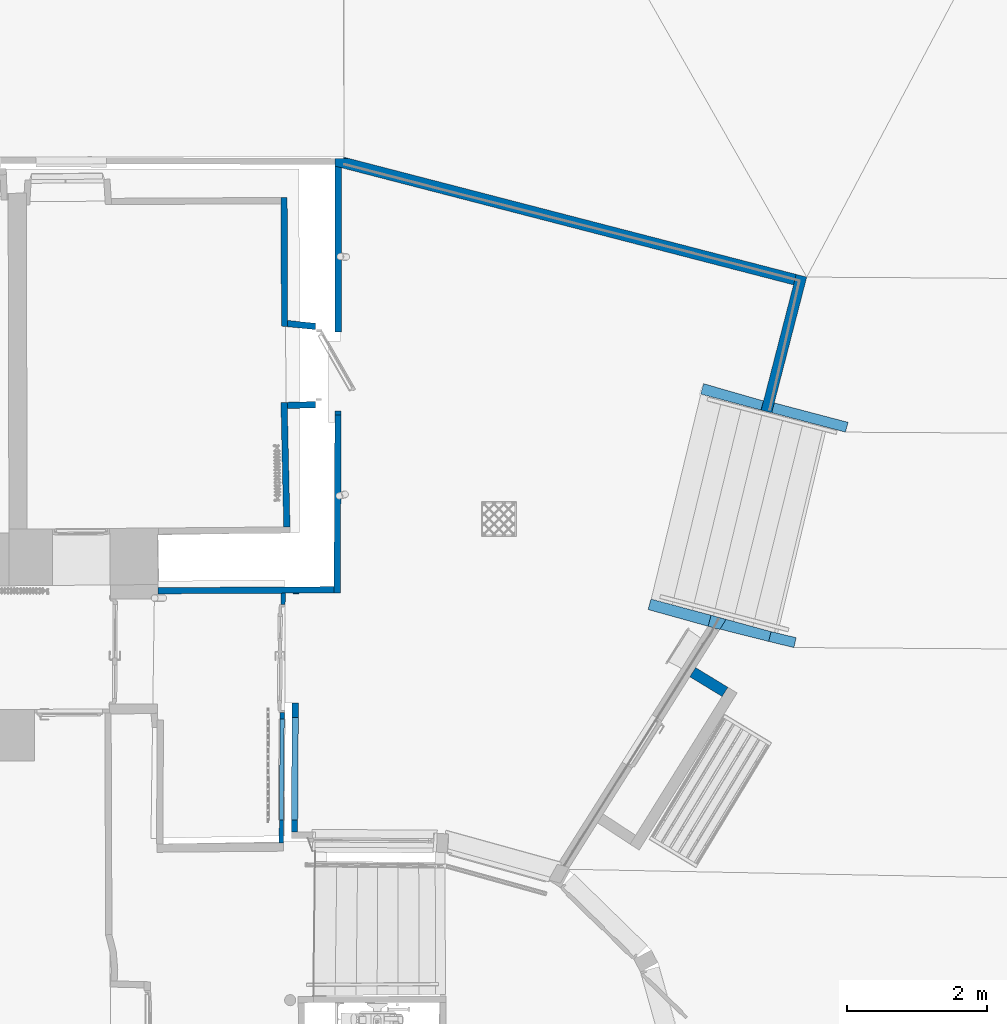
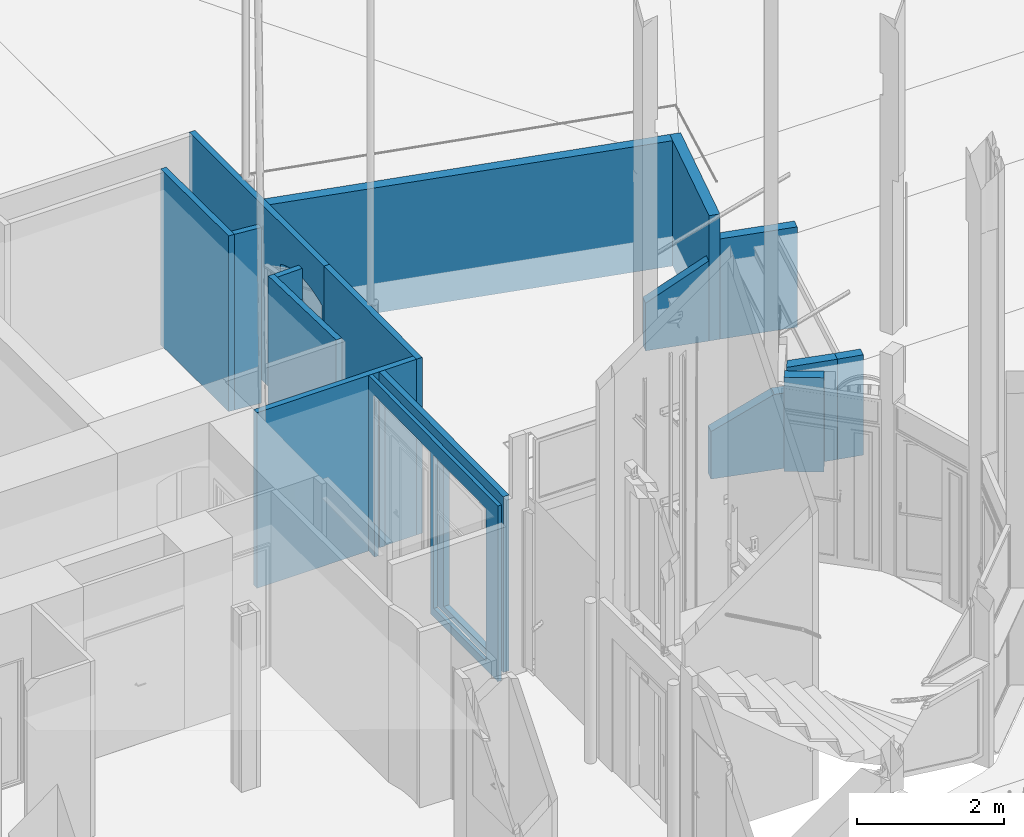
# One storey, part 31 of 133: 17 walls, 5 openings.
"""IFC2X3 building model written with IfcOpenShell, lengths in centimetres."""

from ifc_helpers import new_model, entity, si_unit, converted_unit, point, direction, frame, frame_2d, origin, origin_with_axes, origin_2d_with_axis, place, context, subcontext, project, spatial, polyline, circle_curve, trimmed, segment, composite_curve, rectangle, outline, extrude, clip, bounded_halfspace, shape, material, layer, layer_set, layer_usage, type_object, element, save


model = new_model("IFC2X3")

# Units and contexts
model_context = context("Model", 3, precision=0.0001, world=origin(), true_north=direction((0.225632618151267, 0.974212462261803, 0.0)))
body_context = subcontext(model_context, "Body", "Model", "MODEL_VIEW")
footprint_context = subcontext(model_context, "FootPrint", "Model", "MODEL_VIEW")
profile_context = subcontext(model_context, "Profile", "Model", "MODEL_VIEW")
ifc_project = project(units=[si_unit("LENGTHUNIT", "METRE", prefix="CENTI"), si_unit("AREAUNIT", "SQUARE_METRE", prefix="CENTI"), si_unit("VOLUMEUNIT", "CUBIC_METRE", prefix="CENTI"), converted_unit("PLANEANGLEUNIT", "DEGREE", entity("IfcRatioMeasure", 0.0174532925), si_unit("PLANEANGLEUNIT", "RADIAN"), dimensions=[0, 0, 0, 0, 0, 0, 0])], contexts=[model_context])

# Site, building, storey
site_placement = place(None, origin_with_axes())
site = spatial("IfcSite", under=ifc_project, at=site_placement, Name="Default Site", CompositionType="ELEMENT")
building_placement = place(site_placement, origin_with_axes())
building = spatial("IfcBuilding", under=site, at=building_placement, Name="Default Building", CompositionType="ELEMENT")
storey_placement = place(building_placement, frame((0.0, 0.0, -291.400371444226), z_axis=(0.0, 0.0, 1.0), x_axis=(1.0, 0.0, 0.0)))
storey = spatial("IfcBuildingStorey", under=building, at=storey_placement, Name="Rez-de-Jardin", CompositionType="ELEMENT", Elevation=-291.400371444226)

# Walls
ifc_material = material(Name="<aucun>")
ifc_layer_1 = layer(ifc_material, 9.0)
ifc_layer_set_1 = layer_set([ifc_layer_1], Name="default")
ifc_layer_usage_1 = layer_usage(ifc_layer_set_1, "AXIS2", "POSITIVE", -4.5)
wall_type_1 = type_object("IfcWallType", Name="default 90", PredefinedType="NOTDEFINED", material=ifc_layer_set_1)
wall_1_placement = place(storey_placement, frame((1071.70376217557, 412.268811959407, -1.94511073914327e-11), z_axis=(0.0, 0.0, 1.0), x_axis=(0.999613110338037, 0.0278141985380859, 0.0)))
element("IfcWallStandardCase", 1, at=wall_1_placement, inside=storey, type_object=wall_type_1, material=ifc_layer_usage_1, Name="Enveloppe 582876", context=body_context, shape_type="SweptSolid", body=[
    extrude(outline(polyline([(9.70743468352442, 4.49999999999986), (9.65879538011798, -4.50000000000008), (49.5114053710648, -4.50000000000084), (49.8093135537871, 4.49999999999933), (9.70743468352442, 4.49999999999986)])), frame((0.0, 0.0, 8.88178419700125e-14), z_axis=(0.0, 0.0, 1.0), x_axis=(1.0, 0.0, 0.0)), (0.0, 0.0, 1.0), 291.413221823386),
])
ifc_layer_usage_2 = layer_usage(ifc_layer_set_1, "AXIS2", "POSITIVE", -4.5)
wall_2_placement = place(storey_placement, frame((1122.36508308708, 525.191248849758, -1.94511073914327e-11), z_axis=(0.0, 0.0, 1.0), x_axis=(-0.994856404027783, 0.101295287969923, 0.0)))
element("IfcWallStandardCase", 2, at=wall_2_placement, inside=storey, type_object=wall_type_1, material=ifc_layer_usage_2, Name="Enveloppe 582874", context=body_context, shape_type="SweptSolid", body=[
    extrude(outline(polyline([(41.0546230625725, -4.49999999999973), (40.101195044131, 4.50000000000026), (5.32907051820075e-13, 4.49999999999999), (0.86846511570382, -4.49999999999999), (41.0546230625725, -4.49999999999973)])), frame((0.0, 0.0, 8.88178419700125e-14), z_axis=(0.0, 0.0, 1.0), x_axis=(1.0, 0.0, 0.0)), (0.0, 0.0, 1.0), 291.413221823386),
])
ifc_layer_usage_3 = layer_usage(ifc_layer_set_1, "AXIS2", "POSITIVE", -4.5)
wall_3_placement = place(storey_placement, frame((1081.21178245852, 219.392825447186, -1.94511073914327e-11), z_axis=(0.0, 0.0, 1.0), x_axis=(-0.022411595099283, 0.999748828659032, 0.0)))
element("IfcWallStandardCase", 3, at=wall_3_placement, inside=storey, type_object=wall_type_1, material=ifc_layer_usage_3, Name="Enveloppe 57399", context=body_context, shape_type="SweptSolid", body=[
    extrude(outline(polyline([(197.544388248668, 4.50000000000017), (19.9384758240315, 4.50000000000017), (19.8127421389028, -4.50000000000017), (197.593027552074, -4.49999999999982), (197.544388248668, 4.50000000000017)])), frame((0.0, 0.0, 1.77635683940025e-13), z_axis=(0.0, 0.0, 1.0), x_axis=(1.0, 0.0, 0.0)), (0.0, 0.0, 1.0), 291.413221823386),
])
ifc_layer_usage_4 = layer_usage(ifc_layer_set_1, "AXIS2", "POSITIVE", -4.5)
wall_4_placement = place(storey_placement, frame((1077.47747921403, 533.812176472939, -1.94511073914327e-11), z_axis=(0.0, 0.0, 1.0), x_axis=(-0.00407347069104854, 0.999991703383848, 0.0)))
element("IfcWallStandardCase", 4, at=wall_4_placement, inside=storey, type_object=wall_type_1, material=ifc_layer_usage_4, Name="Enveloppe 362015", context=body_context, shape_type="SweptSolid", body=[
    extrude(outline(polyline([(175.489473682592, 4.4999999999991), (-8.10069705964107, 4.50000000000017), (-9.05412507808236, -4.50000000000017), (175.498864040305, -4.50000000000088), (175.489473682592, 4.4999999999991)])), frame((0.0, 0.0, 1.33226762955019e-13), z_axis=(0.0, 0.0, 1.0), x_axis=(1.0, 0.0, 0.0)), (0.0, 0.0, 1.0), 291.413221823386),
])

# Wall, openings
ifc_layer_usage_5 = layer_usage(ifc_layer_set_1, "AXIS2", "POSITIVE", -4.5)
wall_5_placement = place(storey_placement, frame((1091.69287608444, -196.148801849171, -1.94511073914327e-11), z_axis=(0.0, 0.0, 1.0), x_axis=(0.00591520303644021, 0.999982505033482, 0.0)))
wall_5 = element("IfcWallStandardCase", 5, at=wall_5_placement, inside=storey, type_object=wall_type_1, material=ifc_layer_usage_5, Name="Enveloppe 357221", context=body_context, shape_type="SweptSolid", body=[
    extrude(outline(polyline([(0.00542238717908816, 4.50000000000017), (0.00542238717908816, -4.50000000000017), (340.895375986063, -4.50000399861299), (340.797865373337, 4.4999999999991), (0.00542238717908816, 4.50000000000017)])), frame((0.0, 0.0, 8.88178419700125e-14), z_axis=(0.0, 0.0, 1.0), x_axis=(1.0, 0.0, 0.0)), (0.0, 0.0, 1.0), 291.413221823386),
])
opening_1_placement = place(wall_5_placement, frame((184.005099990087, 2.27373675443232e-13, 1.03831488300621e-05), z_axis=(0.0, 0.0, 1.0), x_axis=(1.0, -1.67747760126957e-15, 0.0)))
cartesian_point_1 = entity("IfcCartesianPoint", [1.52655665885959e-14, 0.0, 267.995960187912])
cartesian_point_2 = entity("IfcCartesianPoint", [155.974739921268, 4.49999999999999])
element("IfcOpeningElement", 6, at=opening_1_placement, cuts=wall_5, Name="Baie 357470", ObjectType="Opening", shapes=[
    shape(body_context, "Body", "SweptSolid", [extrude(outline(polyline([(6.93889390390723e-15, 267.995960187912), (-1.52655665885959e-14, 4.44089209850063e-14), (155.974739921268, 4.44089209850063e-14), (155.974739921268, 267.995960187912), (6.93889390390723e-15, 267.995960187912)])), frame((0.0, 14.5, 0.0), z_axis=(0.0, -1.0, 0.0), x_axis=(1.0, 0.0, 0.0)), (0.0, 0.0, 1.0), 29.0)]),
    shape(profile_context, "Profile", "GeometricCurveSet", [entity("IfcGeometricCurveSet", [entity("IfcPolyline", [cartesian_point_1, entity("IfcCartesianPoint", [-6.93889390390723e-15, 0.0, 4.44089209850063e-14]), entity("IfcCartesianPoint", [155.974739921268, 0.0, 4.44089209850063e-14]), entity("IfcCartesianPoint", [155.974739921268, 0.0, 267.995960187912]), cartesian_point_1])])]),
    shape(footprint_context, "FootPrint", "GeometricCurveSet", [entity("IfcGeometricCurveSet", [entity("IfcPolyline", [cartesian_point_2, entity("IfcCartesianPoint", [-1.52655665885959e-14, 4.50000000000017]), entity("IfcCartesianPoint", [1.38777878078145e-15, -4.49999999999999]), entity("IfcCartesianPoint", [155.974739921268, -4.49999999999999]), cartesian_point_2])])]),
])
opening_2_placement = place(wall_5_placement, frame((16.9488453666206, 2.27373675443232e-13, 9.81828560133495), z_axis=(0.0, 0.0, 1.0), x_axis=(1.0, -1.67747760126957e-15, 0.0)))
cartesian_point_3 = entity("IfcCartesianPoint", [2.22044604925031e-14, -1.77635683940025e-13, 257.678540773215])
cartesian_point_4 = entity("IfcCartesianPoint", [146.773012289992, 4.49999999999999])
element("IfcOpeningElement", 7, at=opening_2_placement, cuts=wall_5, Name="Baie 357471", ObjectType="Opening", shapes=[
    shape(body_context, "Body", "SweptSolid", [extrude(outline(polyline([(2.22044604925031e-14, 257.678540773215), (0.0, 4.44089209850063e-14), (146.773012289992, 4.44089209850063e-14), (146.773012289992, 257.678540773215), (2.22044604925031e-14, 257.678540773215)])), frame((0.0, 14.5, 0.0), z_axis=(0.0, -1.0, 0.0), x_axis=(1.0, 0.0, 0.0)), (0.0, 0.0, 1.0), 29.0)]),
    shape(profile_context, "Profile", "GeometricCurveSet", [entity("IfcGeometricCurveSet", [entity("IfcPolyline", [cartesian_point_3, entity("IfcCartesianPoint", [0.0, -1.77635683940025e-13, 4.44089209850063e-14]), entity("IfcCartesianPoint", [146.773012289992, 0.0, 4.44089209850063e-14]), entity("IfcCartesianPoint", [146.773012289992, 0.0, 257.678540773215]), cartesian_point_3])])]),
    shape(footprint_context, "FootPrint", "GeometricCurveSet", [entity("IfcGeometricCurveSet", [entity("IfcPolyline", [cartesian_point_4, entity("IfcCartesianPoint", [0.0, 4.49999999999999]), entity("IfcCartesianPoint", [2.22044604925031e-14, -4.50000000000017]), entity("IfcCartesianPoint", [146.773012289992, -4.49999999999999]), cartesian_point_4])])]),
])

ifc_layer_2 = layer(ifc_material, 6.0)
ifc_layer_set_2 = layer_set([ifc_layer_2], Name="default")
ifc_layer_usage_6 = layer_usage(ifc_layer_set_2, "AXIS2", "POSITIVE", -3.0)
wall_type_2 = type_object("IfcWallType", Name="default 60", PredefinedType="NOTDEFINED", material=ifc_layer_set_2)
wall_6_placement = place(storey_placement, frame((1072.74238360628, -211.501360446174, -1.94511073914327e-11), z_axis=(0.0, 0.0, 1.0), x_axis=(0.00794666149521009, 0.999968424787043, 0.0)))
wall_6 = element("IfcWallStandardCase", 8, at=wall_6_placement, inside=storey, type_object=wall_type_2, material=ifc_layer_usage_6, Name="Enveloppe 72513", context=body_context, shape_type="Clipping", body=[
    clip(extrude(outline(polyline([(0.0, 3.00000000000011), (0.0, -2.99999999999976), (356.153047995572, -3.000000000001), (356.07539948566, 2.99999999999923), (0.0, 3.00000000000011)])), frame((0.0, 0.0, 8.88178419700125e-14), z_axis=(0.0, 0.0, 1.0), x_axis=(1.0, 0.0, 0.0)), (0.0, 0.0, 1.0), 291.413221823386), bounded_halfspace(frame((0.0, 2.99999999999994, 262.400371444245), z_axis=(0.0, 0.0, 1.0), x_axis=(0.016676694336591, -0.999860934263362, 0.0)), True, frame((0.0, 2.99999999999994, 262.400371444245), z_axis=(0.0, 0.0, 1.0), x_axis=(1.0, 0.0, 0.0)), polyline([(0.0, -5.99999999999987), (0.0, 0.0), (0.100074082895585, -6.00000000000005), (0.0, -5.99999999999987)]))),
])
opening_3_placement = place(wall_6_placement, frame((32.8703989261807, 0.0, 14.0000000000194), z_axis=(0.0, 0.0, 1.0), x_axis=(1.0, -4.17027523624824e-15, 0.0)))
cartesian_point_5 = entity("IfcCartesianPoint", [-1.11022302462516e-13, 0.0, 253.5])
cartesian_point_6 = entity("IfcCartesianPoint", [143.783224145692, 2.99999999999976])
element("IfcOpeningElement", 9, at=opening_3_placement, cuts=wall_6, Name="4294966474_11", ObjectType="Opening", shapes=[
    shape(body_context, "Body", "SweptSolid", [extrude(outline(polyline([(-1.33226762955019e-13, 253.5), (-1.33226762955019e-13, 0.0), (143.783224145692, 0.0), (143.783224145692, 253.5), (-1.33226762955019e-13, 253.5)])), frame((0.0, 13.0, 0.0), z_axis=(0.0, -1.0, 0.0), x_axis=(1.0, 0.0, 0.0)), (0.0, 0.0, 1.0), 26.0)]),
    shape(profile_context, "Profile", "GeometricCurveSet", [entity("IfcGeometricCurveSet", [entity("IfcPolyline", [cartesian_point_5, entity("IfcCartesianPoint", [-1.11022302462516e-13, 0.0, 0.0]), entity("IfcCartesianPoint", [143.783224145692, 0.0, 0.0]), entity("IfcCartesianPoint", [143.783224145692, 0.0, 253.5]), cartesian_point_5])])]),
    shape(footprint_context, "FootPrint", "GeometricCurveSet", [entity("IfcGeometricCurveSet", [entity("IfcPolyline", [cartesian_point_6, entity("IfcCartesianPoint", [-1.33226762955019e-13, 2.99999999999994]), entity("IfcCartesianPoint", [-8.88178419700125e-14, -2.99999999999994]), entity("IfcCartesianPoint", [143.783224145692, -2.99999999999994]), cartesian_point_6])])]),
])
opening_4_placement = place(wall_6_placement, frame((185.932714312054, -6.82121026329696e-13, 1.86077819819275e-11), z_axis=(0.0, 0.0, 1.0), x_axis=(1.0, -4.17027523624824e-15, 0.0)))
cartesian_point_7 = entity("IfcCartesianPoint", [-9.99200722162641e-14, 0.0, 268.0])
cartesian_point_8 = entity("IfcCartesianPoint", [153.89969671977, 2.99999999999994])
element("IfcOpeningElement", 10, at=opening_4_placement, cuts=wall_6, Name="4294966364_11", ObjectType="Opening", shapes=[
    shape(body_context, "Body", "SweptSolid", [extrude(outline(polyline([(-1.33226762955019e-13, 268.0), (-1.33226762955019e-13, -4.44089209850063e-14), (153.89969671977, -4.44089209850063e-14), (153.89969671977, 268.0), (-1.33226762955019e-13, 268.0)])), frame((0.0, 13.0, 0.0), z_axis=(0.0, -1.0, 0.0), x_axis=(1.0, 0.0, 0.0)), (0.0, 0.0, 1.0), 26.0)]),
    shape(profile_context, "Profile", "GeometricCurveSet", [entity("IfcGeometricCurveSet", [entity("IfcPolyline", [cartesian_point_7, entity("IfcCartesianPoint", [-9.99200722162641e-14, 0.0, -4.44089209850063e-14]), entity("IfcCartesianPoint", [153.89969671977, 0.0, -4.44089209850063e-14]), entity("IfcCartesianPoint", [153.89969671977, 0.0, 268.0]), cartesian_point_7])])]),
    shape(footprint_context, "FootPrint", "GeometricCurveSet", [entity("IfcGeometricCurveSet", [entity("IfcPolyline", [cartesian_point_8, entity("IfcCartesianPoint", [-1.33226762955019e-13, 2.99999999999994]), entity("IfcCartesianPoint", [-8.88178419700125e-14, -2.99999999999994]), entity("IfcCartesianPoint", [153.89969671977, -2.99999999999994]), cartesian_point_8])])]),
])

# Walls
ifc_layer_3 = layer(ifc_material, 15.5)
ifc_layer_set_3 = layer_set([ifc_layer_3], Name="default")
ifc_layer_usage_7 = layer_usage(ifc_layer_set_3, "AXIS2", "POSITIVE", -7.75)
wall_type_3 = type_object("IfcWallType", Name="default 155", PredefinedType="NOTDEFINED", material=ifc_layer_set_3)
wall_7_placement = place(storey_placement, frame((1719.19279831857, -4.26581232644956, 8.88178419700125e-14), z_axis=(0.0, 0.0, 1.0), x_axis=(-0.853653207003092, 0.520841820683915, 0.0)))
element("IfcWallStandardCase", 11, at=wall_7_placement, inside=storey, type_object=wall_type_3, material=ifc_layer_usage_7, Name="Enveloppe 295406", context=body_context, shape_type="SweptSolid", body=[
    extrude(outline(polyline([(69.6937518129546, 7.75000000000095), (15.6506483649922, 7.75000000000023), (15.5028205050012, -7.75000000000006), (69.4476986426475, -7.74999999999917), (69.6937518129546, 7.75000000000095)])), frame((0.0, 0.0, -1.94955163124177e-11), z_axis=(0.0, 0.0, 1.0), x_axis=(1.0, 0.0, 0.0)), (0.0, 0.0, 1.0), 156.400371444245),
])
ifc_layer_usage_8 = layer_usage(ifc_layer_set_3, "AXIS2", "POSITIVE", -7.75)
wall_8_placement = place(storey_placement, frame((1764.97666410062, 403.944606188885, -50.0), z_axis=(0.0, 0.0, 1.0), x_axis=(0.250106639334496, 0.968218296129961, 0.0)))
element("IfcWallStandardCase", 12, at=wall_8_placement, inside=storey, type_object=wall_type_3, material=ifc_layer_usage_8, Name="Enveloppe 134391", context=body_context, shape_type="Clipping", body=[
    clip(extrude(outline(polyline([(-1.77635683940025e-13, 7.75000000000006), (-1.77635683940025e-13, -7.75000000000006), (200.012958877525, -7.75000000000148), (200.02393757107, 7.74999999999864), (-1.77635683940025e-13, 7.75000000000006)])), origin_with_axes(), (0.0, 0.0, 1.0), 207.900371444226), bounded_halfspace(frame((-1.77635683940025e-13, 7.75000000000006, 166.400371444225), z_axis=(0.0, 0.0, 1.0), x_axis=(1.0, 8.3100193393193e-13, 0.0)), True, frame((-1.77635683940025e-13, 7.75000000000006, 166.400371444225), z_axis=(0.0, 0.0, 1.0), x_axis=(1.0, 0.0, 0.0)), polyline([(-1.77635683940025e-13, -15.5000000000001), (-1.77635683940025e-13, 0.0), (0.202530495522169, 0.0), (0.131608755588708, -15.5000000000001), (-1.77635683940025e-13, -15.5000000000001)]))),
])
ifc_layer_usage_9 = layer_usage(ifc_layer_set_3, "AXIS2", "POSITIVE", -7.75)
wall_9_placement = place(storey_placement, frame((1805.5672740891, 592.044698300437, -50.0), z_axis=(0.0, 0.0, 1.0), x_axis=(-0.968040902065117, 0.250792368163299, 0.0)))
element("IfcWallStandardCase", 13, at=wall_9_placement, inside=storey, type_object=wall_type_3, material=ifc_layer_usage_9, Name="Enveloppe 134414", context=body_context, shape_type="Clipping", body=[
    clip(clip(extrude(outline(polyline([(676.365799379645, 5.66309799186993), (676.244922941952, 5.6317822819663), (675.69756186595, 7.74999999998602), (-1.77635683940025e-13, 7.74999999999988), (0.0109786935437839, -7.7499999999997), (666.854560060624, -7.75000000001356), (666.854560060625, -6.05611895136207), (678.59343045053, -3.05694649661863), (676.365799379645, 5.66309799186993)])), origin_with_axes(), (0.0, 0.0, 1.0), 207.900371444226), bounded_halfspace(frame((676.954614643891, 3.35819070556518, 49.9999999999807), z_axis=(0.0, 0.0, 1.0), x_axis=(0.247512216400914, -0.968884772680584, 0.0)), True, frame((676.954614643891, 3.35819070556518, 49.9999999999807), z_axis=(0.0, 0.0, 1.0), x_axis=(1.0, 0.0, 0.0)), polyline([(-10.100054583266, -9.41430965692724), (-10.1000545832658, 4.3918092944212), (-1.2570527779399, 4.39180929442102), (-0.709691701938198, 2.27359157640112), (-0.58870919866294, 2.30449788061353), (1.63890074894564, -6.41546507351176), (-10.100054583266, -9.41430965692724)]))), bounded_halfspace(frame((666.854560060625, -6.05611895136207, 49.9999999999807), z_axis=(0.0, 0.0, -1.0), x_axis=(-0.968884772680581, -0.247512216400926, 0.0)), True, frame((666.854560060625, -6.05611895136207, 49.9999999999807), z_axis=(0.0, 0.0, 1.0), x_axis=(1.0, 0.0, 0.0)), polyline([(-6.63068505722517, -1.69388104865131), (3.5527136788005e-13, -1.69388104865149), (5.32907051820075e-13, 0.0), (-6.63068505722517, -1.69388104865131)]))),
])
ifc_layer_usage_10 = layer_usage(ifc_layer_set_3, "AXIS2", "POSITIVE", -7.75)
wall_10_placement = place(storey_placement, frame((1683.78098461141, 104.958757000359, -50.0), z_axis=(0.0, 0.0, 1.0), x_axis=(-0.963364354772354, 0.268196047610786, 0.0)))
element("IfcWallStandardCase", 14, at=wall_10_placement, inside=storey, type_object=wall_type_3, material=ifc_layer_usage_10, Name="Enveloppe 134966", context=body_context, shape_type="Clipping", body=[
    clip(extrude(outline(polyline([(88.849537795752, 7.74999999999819), (-17.2302997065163, 7.75000000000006), (-17.403590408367, 7.17389911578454), (-22.248173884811, 7.05982696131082), (-22.1671199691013, -8.57698038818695), (-1.77635683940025e-13, -8.57698038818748), (88.8495377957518, -7.75000000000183), (88.849537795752, 7.74999999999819)])), frame((0.0, 0.0, -4.44089209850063e-14), z_axis=(0.0, 0.0, 1.0), x_axis=(1.0, 0.0, 0.0)), (0.0, 0.0, 1.0), 124.997195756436), bounded_halfspace(frame((0.0, 7.7499999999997, 124.997195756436), z_axis=(-0.462110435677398, 9.18709552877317e-15, -0.886822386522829), x_axis=(8.54871728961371e-15, 1.0, 5.730183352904e-15)), True, frame((0.0, 7.7499999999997, 124.997195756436), z_axis=(0.0, 0.0, 1.0), x_axis=(1.0, 0.0, 0.0)), polyline([(-1.77635683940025e-13, -16.3269803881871), (88.8495377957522, -15.5000000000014), (88.8495377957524, -1.50990331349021e-12), (3.5527136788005e-13, 8.88178419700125e-14), (-1.77635683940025e-13, -16.3269803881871)]))),
])
ifc_layer_usage_11 = layer_usage(ifc_layer_set_1, "AXIS2", "POSITIVE", -4.5)
wall_type_4 = type_object("IfcWallType", Name="default 90", PredefinedType="NOTDEFINED", material=ifc_layer_set_1)
wall_11_placement = place(storey_placement, frame((1152.51430381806, 145.242926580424, -1.94511073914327e-11), z_axis=(0.0, 0.0, 1.0), x_axis=(0.00506195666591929, 0.999987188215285, 0.0)))
element("IfcWallStandardCase", 15, at=wall_11_placement, inside=storey, type_object=wall_type_4, material=ifc_layer_usage_11, Name="Enveloppe 354991", context=body_context, shape_type="SweptSolid", body=[
    extrude(outline(polyline([(-0.302322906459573, 4.49999999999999), (-0.211816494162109, -4.49999999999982), (253.773391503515, -4.50000000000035), (253.773391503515, 4.49999999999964), (-0.302322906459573, 4.49999999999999)])), frame((0.0, 0.0, 1.33226762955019e-13), z_axis=(0.0, 0.0, 1.0), x_axis=(1.0, 0.0, 0.0)), (0.0, 0.0, 1.0), 291.413221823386),
])

# Wall, opening
ifc_layer_usage_12 = layer_usage(ifc_layer_set_1, "AXIS2", "POSITIVE", -4.5)
wall_12_placement = place(storey_placement, frame((1153.79933398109, 399.091283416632, -1.94511073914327e-11), z_axis=(0.0, 0.0, 1.0), x_axis=(0.000623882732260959, 0.999999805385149, 0.0)))
wall_12 = element("IfcWallStandardCase", 16, at=wall_12_placement, inside=storey, type_object=wall_type_4, material=ifc_layer_usage_12, Name="Enveloppe 354607", context=body_context, shape_type="Clipping", body=[
    clip(clip(extrude(outline(polyline([(-0.0582455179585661, 4.50034713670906), (-0.0981882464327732, -4.49956422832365), (366.07111355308, -4.49999999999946), (366.095981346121, 4.50000000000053), (-0.0582455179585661, 4.50034713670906)])), frame((0.0, 0.0, 8.88178419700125e-14), z_axis=(0.0, 0.0, 1.0), x_axis=(1.0, 0.0, 0.0)), (0.0, 0.0, 1.0), 291.413221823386), bounded_halfspace(frame((357.095946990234, 4.50000000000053, 157.900371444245), z_axis=(0.0, 0.0, 1.0), x_axis=(1.0, 9.81005641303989e-14, 0.0)), True, frame((357.095946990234, 4.50000000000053, 157.900371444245), z_axis=(0.0, 0.0, 1.0), x_axis=(1.0, 0.0, 0.0)), polyline([(-2.61271293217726, -1.64437524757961), (-2.18779579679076, 0.0), (2.37761286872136, 1.77635683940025e-13), (2.36100413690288, -1.59904232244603), (-2.61271293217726, -1.64437524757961)]))), bounded_halfspace(frame((352.582493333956, -4.49999999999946, 157.900371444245), z_axis=(0.0, 0.0, 1.0), x_axis=(0.250188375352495, 0.968197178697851, 0.0)), True, frame((352.582493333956, -4.49999999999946, 157.900371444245), z_axis=(0.0, 0.0, 1.0), x_axis=(1.0, 0.0, 0.0)), polyline([(0.0, 0.0), (1.90074072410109, 7.35562475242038), (6.87445779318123, 7.40095767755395), (6.89106652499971, 9.00000000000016), (13.5134880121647, 8.99999999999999), (13.4886202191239, 1.77635683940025e-13), (0.0, 0.0)]))),
])
opening_5_placement = place(wall_12_placement, frame((5.40543074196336, 2.27373675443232e-13, 8.88178419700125e-14), z_axis=(0.0, 0.0, 1.0), x_axis=(-1.0, -1.49305481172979e-15, 0.0)))
cartesian_point_9 = entity("IfcCartesianPoint", [0.0, 0.0, 222.993602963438])
cartesian_point_10 = entity("IfcCartesianPoint", [-112.531759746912, 0.0, 222.993602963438])
cartesian_point_11 = entity("IfcCartesianPoint", [-112.531759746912, -4.49999999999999])
element("IfcOpeningElement", 17, at=opening_5_placement, cuts=wall_12, Name="Baie 356362", ObjectType="Opening", shapes=[
    shape(body_context, "Body", "SweptSolid", [extrude(outline(composite_curve([segment(polyline([(-8.88178419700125e-14, 222.993602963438), (-8.88178419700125e-14, 0.0), (112.531759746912, 0.0), (112.531759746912, 222.993602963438)]), True, "CONTINUOUS"), segment(trimmed(circle_curve(frame_2d((56.2658798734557, 107.647450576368), x_axis=(1.0, 0.0)), 128.337773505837), [point((112.531759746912, 222.993602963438))], [point((-8.88178419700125e-14, 222.993602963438))], True, "CARTESIAN"), True, "CONTINUOUS")], self_intersect=False)), frame((0.0, -14.5, 0.0), z_axis=(0.0, 1.0, 0.0), x_axis=(-1.0, 0.0, 0.0)), (0.0, 0.0, 1.0), 29.0)]),
    shape(profile_context, "Profile", "GeometricCurveSet", [entity("IfcGeometricCurveSet", [entity("IfcCompositeCurve", [entity("IfcCompositeCurveSegment", "CONTINUOUS", True, entity("IfcPolyline", [cartesian_point_9, entity("IfcCartesianPoint", [0.0, 0.0, 0.0]), entity("IfcCartesianPoint", [-112.531759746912, 0.0, 0.0]), cartesian_point_10])), entity("IfcCompositeCurveSegment", "CONTINUOUS", True, entity("IfcTrimmedCurve", entity("IfcCircle", entity("IfcAxis2Placement3D", entity("IfcCartesianPoint", [-56.2658798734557, 1.77635683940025e-13, 107.647450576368]), entity("IfcDirection", [0.0, 1.0, -1.36730960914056e-14]), entity("IfcDirection", [1.0, 0.0, 0.0])), 128.337773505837), [cartesian_point_10], [cartesian_point_9], True, "CARTESIAN"))], False)])]),
    shape(footprint_context, "FootPrint", "GeometricCurveSet", [entity("IfcGeometricCurveSet", [entity("IfcPolyline", [cartesian_point_11, entity("IfcCartesianPoint", [8.88178419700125e-14, -4.49999999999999]), entity("IfcCartesianPoint", [8.88178419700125e-14, 4.49999999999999]), entity("IfcCartesianPoint", [-112.531759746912, 4.49999999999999]), cartesian_point_11])])]),
])

# Walls
ifc_layer_usage_13 = layer_usage(ifc_layer_set_1, "AXIS2", "POSITIVE", -4.5)
wall_13_placement = place(storey_placement, frame((896.919761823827, 148.209485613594, -1.94511073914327e-11), z_axis=(0.0, 0.0, 1.0), x_axis=(0.999987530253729, 0.00499393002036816, 0.0)))
element("IfcWallStandardCase", 18, at=wall_13_placement, inside=storey, type_object=wall_type_4, material=ifc_layer_usage_13, Name="Enveloppe 356643", context=body_context, shape_type="SweptSolid", body=[
    extrude(outline(polyline([(175.632044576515, 4.50000000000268), (0.0922916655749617, 4.49999999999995), (-0.00797600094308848, -4.49999999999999), (175.632044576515, -4.49999999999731), (251.073727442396, -4.49999999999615), (251.164233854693, 4.50000000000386), (175.632044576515, 4.50000000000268)])), frame((0.0, 0.0, 8.88178419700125e-14), z_axis=(0.0, 0.0, 1.0), x_axis=(1.0, 0.0, 0.0)), (0.0, 0.0, 1.0), 291.413221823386),
])
ifc_layer_4 = layer(ifc_material, 13.5)
ifc_layer_set_4 = layer_set([ifc_layer_4], Name="default")
ifc_layer_usage_14 = layer_usage(ifc_layer_set_4, "AXIS2", "POSITIVE", -6.75)
wall_type_5 = type_object("IfcWallType", Name="default 135", PredefinedType="NOTDEFINED", material=ifc_layer_set_4)
wall_14_placement = place(storey_placement, frame((1758.97928905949, 412.465232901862, -50.0), z_axis=(0.0, 0.0, 1.0), x_axis=(-0.960883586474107, 0.276952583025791, 0.0)))
element("IfcWallStandardCase", 19, at=wall_14_placement, inside=storey, type_object=wall_type_5, material=ifc_layer_usage_14, Name="Enveloppe 134326", context=body_context, shape_type="Clipping", body=[
    clip(clip(extrude(outline(polyline([(89.0000830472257, 8.63521631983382), (0.0, 6.7499999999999), (-7.105427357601e-13, 6.54815544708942), (-0.369954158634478, 6.53955052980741), (-5.32907051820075e-13, -6.74999999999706), (89.0000830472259, -6.74999999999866), (89.0000830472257, 8.63521631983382)])), frame((0.0, 0.0, 4.44089209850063e-14), z_axis=(0.0, 0.0, 1.0), x_axis=(1.0, 0.0, 0.0)), (0.0, 0.0, 1.0), 132.796093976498), bounded_halfspace(frame((-5.32907051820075e-13, -6.74999999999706, 132.796093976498), z_axis=(-0.517344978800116, -6.93889390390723e-15, -0.855776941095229), x_axis=(0.0232508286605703, -0.999630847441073, -0.0140558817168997)), True, frame((-5.32907051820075e-13, -6.74999999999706, 132.796093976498), z_axis=(0.0, 0.0, 1.0), x_axis=(1.0, 0.0, 0.0)), polyline([(0.0, 0.0), (89.000083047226, -1.59872115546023e-12), (89.0000830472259, 15.3852163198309), (5.32907051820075e-13, 13.499999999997), (0.0, 0.0)]))), bounded_halfspace(frame((-7.105427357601e-13, 6.54815544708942, 132.796093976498), z_axis=(-0.517344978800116, -6.93889390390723e-15, -0.855776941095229), x_axis=(1.94289029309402e-14, -1.0, 0.0)), True, frame((-7.105427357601e-13, 6.54815544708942, 132.796093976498), z_axis=(0.0, 0.0, 1.0), x_axis=(1.0, 0.0, 0.0)), polyline([(1.77635683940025e-13, -13.2981554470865), (-3.5527136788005e-13, 0.0), (1.77635683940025e-13, -13.2981554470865)]))),
])
ifc_layer_5 = layer(ifc_material, 14.5)
ifc_layer_set_5 = layer_set([ifc_layer_5], Name="default")
ifc_layer_usage_15 = layer_usage(ifc_layer_set_5, "AXIS2", "POSITIVE", -7.25)
wall_type_6 = type_object("IfcWallType", Name="default 145", PredefinedType="NOTDEFINED", material=ifc_layer_set_5)
wall_15_placement = place(storey_placement, frame((1805.79606501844, 74.1631191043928, -49.9999999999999), z_axis=(0.0, 0.0, 1.0), x_axis=(-0.972186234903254, 0.234209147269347, 0.0)))
element("IfcWallStandardCase", 20, at=wall_15_placement, inside=storey, type_object=wall_type_6, material=ifc_layer_usage_15, Name="Enveloppe 146329", context=body_context, shape_type="SweptSolid", body=[
    extrude(rectangle(XDim=14.5, YDim=36.9322240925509, at=origin_2d_with_axis()), frame((18.4661120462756, -8.88178419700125e-14, -1.33226762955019e-13), z_axis=(0.0, 0.0, 1.0), x_axis=(-3.88578058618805e-16, -1.0, 0.0)), (0.0, 0.0, 1.0), 166.400371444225),
])
ifc_layer_usage_16 = layer_usage(ifc_layer_set_5, "AXIS2", "POSITIVE", -7.25)
wall_16_placement = place(storey_placement, frame((1879.56733892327, 381.45366759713, -50.0), z_axis=(0.0, 0.0, 1.0), x_axis=(-0.967063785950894, 0.254534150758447, 0.0)))
element("IfcWallStandardCase", 21, at=wall_16_placement, inside=storey, type_object=wall_type_6, material=ifc_layer_usage_16, Name="Enveloppe 149510", context=body_context, shape_type="SweptSolid", body=[
    extrude(outline(polyline([(108.79188709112, 7.24999999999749), (-3.5527136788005e-13, 7.24999999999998), (-3.5527136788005e-13, -7.24999999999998), (108.858233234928, -7.25000000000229), (108.79188709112, 7.24999999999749)])), origin_with_axes(), (0.0, 0.0, 1.0), 166.400371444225),
])
ifc_layer_usage_17 = layer_usage(ifc_layer_set_5, "AXIS2", "POSITIVE", -7.25)
wall_17_placement = place(storey_placement, frame((1769.70335039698, 82.8608297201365, -49.9999999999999), z_axis=(0.0, 0.0, 1.0), x_axis=(-0.96474159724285, 0.263198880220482, 0.0)))
element("IfcWallStandardCase", 22, at=wall_17_placement, inside=storey, type_object=wall_type_6, material=ifc_layer_usage_17, Name="Enveloppe 145146", context=body_context, shape_type="Clipping", body=[
    clip(clip(extrude(outline(polyline([(80.1117001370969, -7.23665026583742), (66.5234262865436, -7.1662149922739), (71.3428591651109, 8.55989442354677), (-0.410660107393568, 7.24350525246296), (0.0232817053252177, -7.25000000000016), (80.1117276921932, -7.24999999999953), (80.1117001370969, -7.23665026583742)])), frame((0.0, 0.0, -1.77635683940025e-13), z_axis=(0.0, 0.0, 1.0), x_axis=(1.0, 0.0, 0.0)), (0.0, 0.0, 1.0), 166.400371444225), bounded_halfspace(frame((66.4977494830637, 8.47093552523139, 124.997195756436), z_axis=(0.0, 0.0, 1.0), x_axis=(0.999831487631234, 0.0183574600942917, 0.0)), True, frame((66.4977494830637, 8.47093552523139, 124.997195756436), z_axis=(0.0, 0.0, 1.0), x_axis=(1.0, 0.0, 0.0)), polyline([(3.5527136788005e-13, -15.6370174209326), (3.5527136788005e-13, 8.88178419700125e-14), (4.84510968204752, 0.088958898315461), (0.0256768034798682, -15.6371505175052), (3.5527136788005e-13, -15.6370174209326)]))), bounded_halfspace(frame((80.1117001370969, -7.23665026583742, 124.997195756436), z_axis=(0.0, 0.0, -1.0), x_axis=(-0.999986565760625, 0.0051834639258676, 0.0)), True, frame((80.1117001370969, -7.23665026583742, 124.997195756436), z_axis=(0.0, 0.0, 1.0), x_axis=(1.0, 0.0, 0.0)), polyline([(-13.6139506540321, -0.013349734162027), (2.75550966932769e-05, -0.013349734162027), (0.0, 0.0), (-13.5882738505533, 0.0704352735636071), (-13.6139506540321, -0.013349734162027)]))),
])

save(model, "model.ifc")
